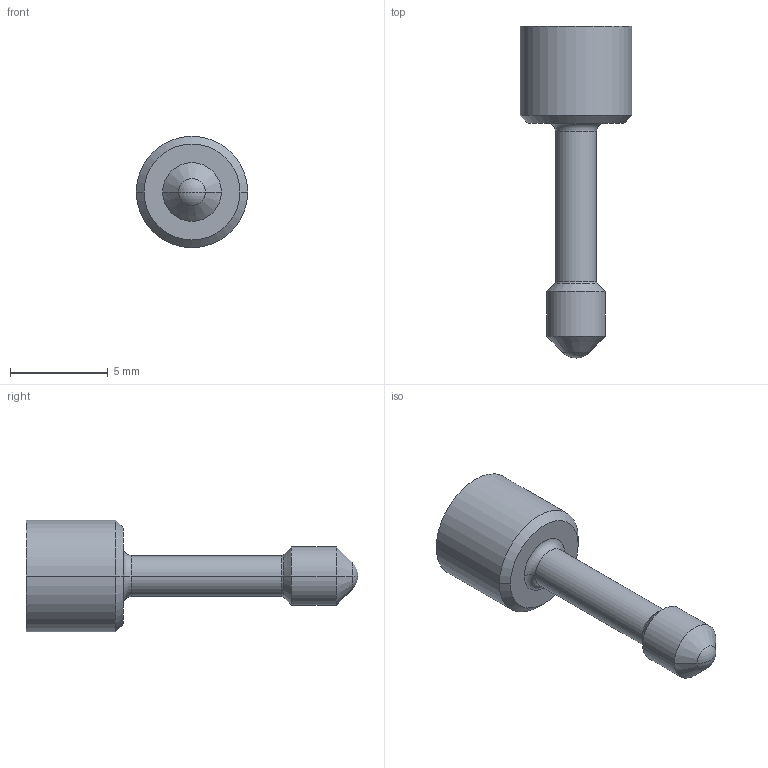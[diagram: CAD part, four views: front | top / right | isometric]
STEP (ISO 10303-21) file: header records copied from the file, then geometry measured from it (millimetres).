
FILE_DESCRIPTION (( 'STEP AP214' ), '1' );
FILE_NAME ('IA 571720.STEP', '2013-10-01T11:21:17', ( '' ), ( '' ), 'SwSTEP 2.0', 'SolidWorks 2011', '' );
FILE_SCHEMA (( 'AUTOMOTIVE_DESIGN' ));
Length unit declared in the file: millimetre
Products named in the file (2): IA 571720
Assembly tree (1 placements, depth 2):
  IA 571720
    IA 571720
Bounding box: 5.7 x 16.97 x 5.7 mm (x, y, z)
Volume: 174.3 mm3; surface area: 229.1 mm2
Topology: 1 solids, 1 shells, 54 faces, 128 edges, 81 vertices
Faces by surface type: cylinder 21, plane 21, cone 6, torus 4, sphere 2
Entity records: 1652 total; most frequent: DIRECTION 300, CARTESIAN_POINT 267, ORIENTED_EDGE 256, EDGE_CURVE 128, AXIS2_PLACEMENT_3D 114, VERTEX_POINT 81, LINE 72, VECTOR 72
